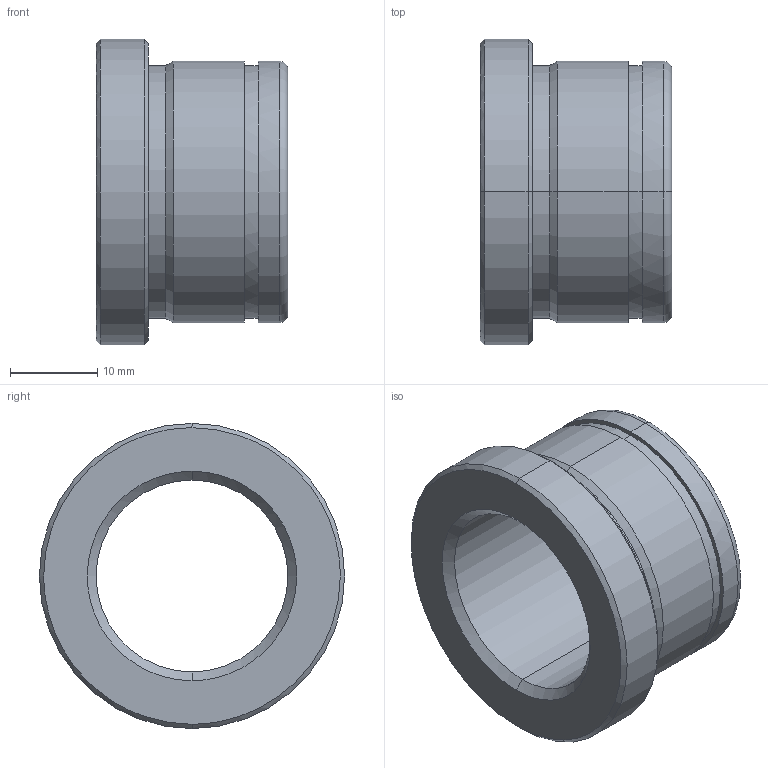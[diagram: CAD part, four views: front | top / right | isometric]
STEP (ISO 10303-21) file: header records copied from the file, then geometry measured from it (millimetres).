
FILE_DESCRIPTION(('CATIA V5 STEP Exchange'),'2;1');
FILE_NAME('C:\Users\Utente\Desktop\IO LAVORO\3D X SITO CF\X SITO\PLASTICA\553\553-22X22.stp','2021-05-25T18:14:23+00:00',('none'),('none'),'CATIA Version 5 Release 20 GA (IN-10)','CATIA V5 STEP AP203','none');
FILE_SCHEMA(('CONFIG_CONTROL_DESIGN'));
Length unit declared in the file: millimetre
Products named in the file (1): 553-22X22
Bounding box: 22 x 35 x 35 mm (x, y, z)
Volume: 8415.3 mm3; surface area: 4802.3 mm2
Topology: 1 solids, 1 shells, 29 faces, 92 edges, 68 vertices
Faces by surface type: cylinder 12, cone 8, plane 5, torus 4
Entity records: 1222 total; most frequent: CARTESIAN_POINT 368, ORIENTED_EDGE 184, DIRECTION 136, EDGE_CURVE 92, AXIS2_PLACEMENT_3D 88, VERTEX_POINT 68, CIRCLE 58, EDGE_LOOP 34
